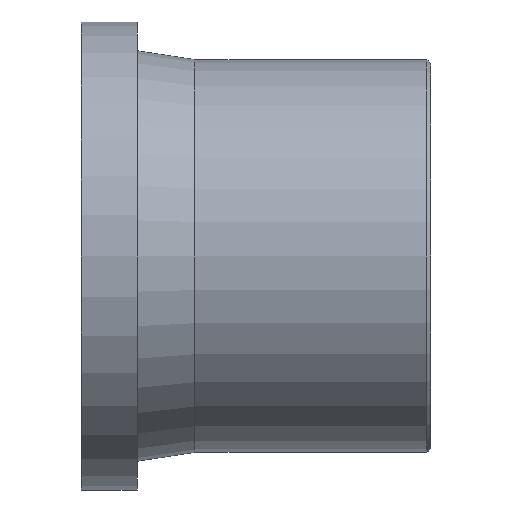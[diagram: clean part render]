
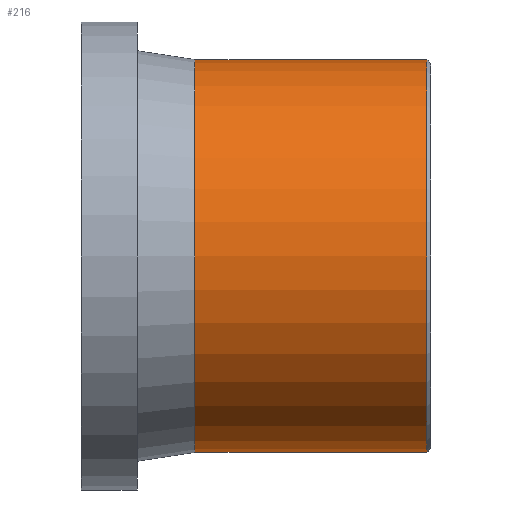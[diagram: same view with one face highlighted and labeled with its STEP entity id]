
A CAD part, front view. The second image highlights one B-rep face of the part: STEP entity #216.
In plain terms, the highlighted cylindrical face has radius 112.5 mm (diameter 225 mm), a full revolution.
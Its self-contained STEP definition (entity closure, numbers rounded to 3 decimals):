
#24=CYLINDRICAL_SURFACE('',#240,112.5);
#34=FACE_BOUND('',#76,.T.);
#54=FACE_OUTER_BOUND('',#75,.T.);
#75=EDGE_LOOP('',(#175));
#76=EDGE_LOOP('',(#176));
#113=CIRCLE('',#238,112.5);
#115=CIRCLE('',#241,112.5);
#133=VERTEX_POINT('',#361);
#135=VERTEX_POINT('',#366);
#153=EDGE_CURVE('',#133,#133,#113,.T.);
#155=EDGE_CURVE('',#135,#135,#115,.T.);
#175=ORIENTED_EDGE('',*,*,#155,.T.);
#176=ORIENTED_EDGE('',*,*,#153,.F.);
#216=ADVANCED_FACE('',(#54,#34),#24,.T.);
#238=AXIS2_PLACEMENT_3D('',#362,#281,#282);
#240=AXIS2_PLACEMENT_3D('',#365,#285,#286);
#241=AXIS2_PLACEMENT_3D('',#367,#287,#288);
#281=DIRECTION('center_axis',(1.,0.,0.));
#282=DIRECTION('ref_axis',(0.,-1.,0.));
#285=DIRECTION('center_axis',(1.,0.,0.));
#286=DIRECTION('ref_axis',(0.,1.,0.));
#287=DIRECTION('center_axis',(1.,0.,0.));
#288=DIRECTION('ref_axis',(0.,0.,-1.));
#361=CARTESIAN_POINT('',(-2.25,112.5,0.));
#362=CARTESIAN_POINT('Origin',(-2.25,0.,
0.));
#365=CARTESIAN_POINT('Origin',(-67.5,0.,0.));
#366=CARTESIAN_POINT('',(-135.,112.5,0.));
#367=CARTESIAN_POINT('Origin',(-135.,0.,0.));
